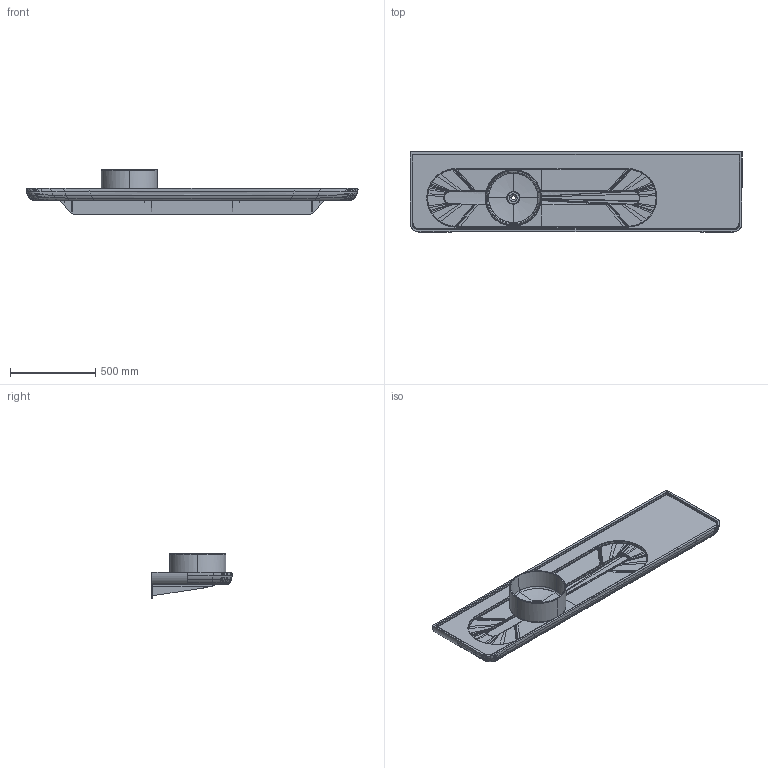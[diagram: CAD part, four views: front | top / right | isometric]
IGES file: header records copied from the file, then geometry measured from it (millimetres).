
Global section: file name: C:\Users\pc\Desktop\Archivio Nic 2023\Mediterraneo 195 cod 001 915\Modello 3d\Mediterraneo 195.igs; native system: Rhinoceros ( Dec  8 2020 ); preprocessor: Trout Lake IGES 012 Dec  8 2020; date: 231210.170532; units: millimetre
Bounding box: 1945.03 x 469.83 x 261.02 mm (x, y, z)
Surface area: 3520946.9 mm2 (no closed solid volume)
Topology: 0 solids, 0 shells, 1542 faces, 9793 edges, 9735 vertices
Faces by surface type: bspline 1542
